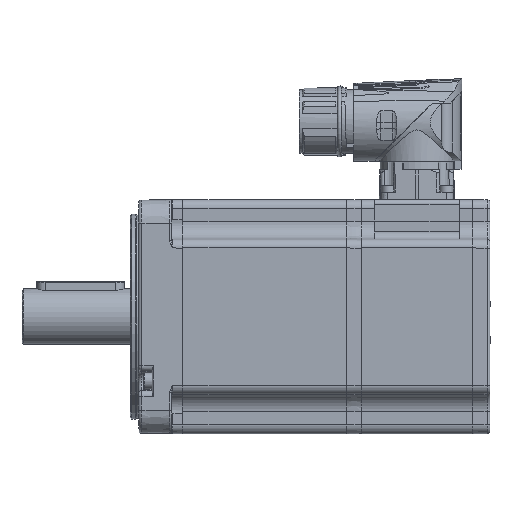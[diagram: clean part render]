
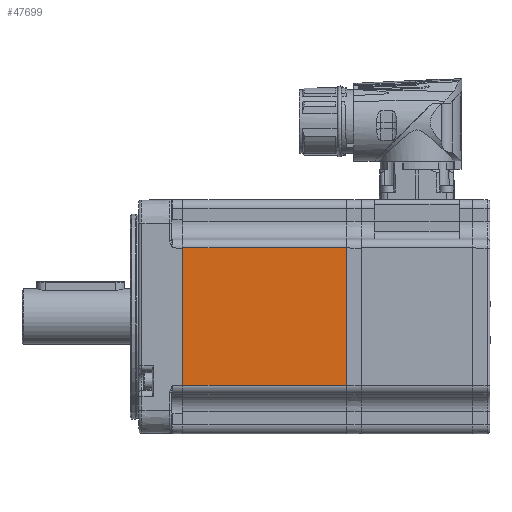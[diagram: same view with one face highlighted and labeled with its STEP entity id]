
A CAD part, left-side view. The second image highlights one B-rep face of the part: STEP entity #47699.
In plain terms, the highlighted planar face has unit normal (-1, 0, 0) as drawn and (0, -1, 0) by its records, which use the part's own axes.
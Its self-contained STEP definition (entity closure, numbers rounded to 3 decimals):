
#8832=ORIENTED_EDGE('',*,*,#16283,.T.);
#8833=ORIENTED_EDGE('',*,*,#16261,.T.);
#8834=ORIENTED_EDGE('',*,*,#16284,.T.);
#8835=ORIENTED_EDGE('',*,*,#16236,.T.);
#16236=EDGE_CURVE('',#20401,#20400,#23487,.T.);
#16261=EDGE_CURVE('',#20426,#20425,#23495,.T.);
#16283=EDGE_CURVE('',#20400,#20426,#23502,.F.);
#16284=EDGE_CURVE('',#20425,#20401,#23503,.F.);
#20400=VERTEX_POINT('',#70667);
#20401=VERTEX_POINT('',#70669);
#20425=VERTEX_POINT('',#70718);
#20426=VERTEX_POINT('',#70720);
#23487=LINE('',#70668,#25619);
#23495=LINE('',#70719,#25627);
#23502=LINE('',#70770,#25634);
#23503=LINE('',#70771,#25635);
#25619=VECTOR('',#56579,1000.);
#25627=VECTOR('',#56623,1000.);
#25634=VECTOR('',#56676,1000.);
#25635=VECTOR('',#56677,1000.);
#27672=EDGE_LOOP('',(#8832,#8833,#8834,#8835));
#30467=FACE_BOUND('',#27672,.T.);
#32534=PLANE('',#50440);
#47699=ADVANCED_FACE('',(#30467),#32534,.T.);
#50440=AXIS2_PLACEMENT_3D('',#70769,#56674,#56675);
#56579=DIRECTION('',(0.,0.,-1.));
#56623=DIRECTION('',(0.,0.,1.));
#56674=DIRECTION('',(0.,-1.,0.));
#56675=DIRECTION('',(0.,0.,-1.));
#56676=DIRECTION('',(-1.,0.,0.));
#56677=DIRECTION('',(1.,0.,0.));
#70667=CARTESIAN_POINT('',(-57.,-40.,-23.5));
#70668=CARTESIAN_POINT('',(-57.,-40.,40.));
#70669=CARTESIAN_POINT('',(-57.,-40.,23.5));
#70718=CARTESIAN_POINT('',(-1.,-40.,23.5));
#70719=CARTESIAN_POINT('',(-1.,-40.,40.));
#70720=CARTESIAN_POINT('',(-1.,-40.,-23.5));
#70769=CARTESIAN_POINT('',(-200.,-40.,40.));
#70770=CARTESIAN_POINT('',(0.,-40.,-23.5));
#70771=CARTESIAN_POINT('',(-200.,-40.,23.5));
